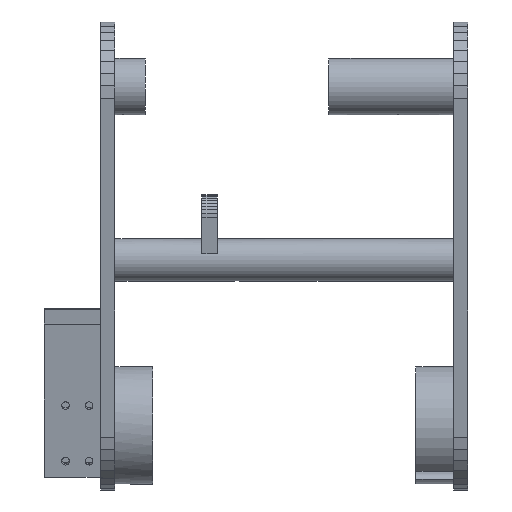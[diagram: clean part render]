
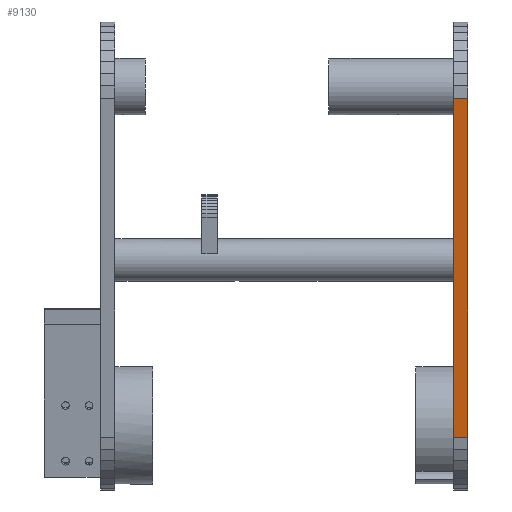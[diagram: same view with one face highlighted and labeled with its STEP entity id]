
A CAD part, left-side view. The second image highlights one B-rep face of the part: STEP entity #9130.
In plain terms, the highlighted planar face has unit normal (-0.983, 0, -0.184).
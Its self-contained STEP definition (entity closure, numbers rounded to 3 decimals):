
#5277 = PLANE('',#5278);
#5278 = AXIS2_PLACEMENT_3D('',#5279,#5280,#5281);
#5279 = CARTESIAN_POINT('',(91.5,-57.8,-284.02));
#5280 = DIRECTION('',(0.,1.,0.));
#5281 = DIRECTION('',(0.,-0.,1.));
#7270 = VERTEX_POINT('',#7271);
#7271 = CARTESIAN_POINT('',(77.971,-57.8,-361.107));
#7285 = PLANE('',#7286);
#7286 = AXIS2_PLACEMENT_3D('',#7287,#7288,#7289);
#7287 = CARTESIAN_POINT('',(79.479,-57.8,-366.282));
#7288 = DIRECTION('',(-0.96,-0.,-0.28));
#7289 = DIRECTION('',(-0.28,0.,0.96));
#7297 = EDGE_CURVE('',#7270,#7298,#7300,.T.);
#7298 = VERTEX_POINT('',#7299);
#7299 = CARTESIAN_POINT('',(50.971,-57.8,-217.067));
#7300 = SURFACE_CURVE('',#7301,(#7305,#7312),.PCURVE_S1.);
#7301 = LINE('',#7302,#7303);
#7302 = CARTESIAN_POINT('',(77.971,-57.8,-361.107));
#7303 = VECTOR('',#7304,1.);
#7304 = DIRECTION('',(-0.184,0.,0.983));
#7305 = PCURVE('',#5277,#7306);
#7306 = DEFINITIONAL_REPRESENTATION('',(#7307),#7311);
#7307 = LINE('',#7308,#7309);
#7308 = CARTESIAN_POINT('',(-77.087,-13.529));
#7309 = VECTOR('',#7310,1.);
#7310 = DIRECTION('',(0.983,-0.184));
#7311 = ( GEOMETRIC_REPRESENTATION_CONTEXT(2) 
PARAMETRIC_REPRESENTATION_CONTEXT() REPRESENTATION_CONTEXT('2D SPACE',''
  ) );
#7312 = PCURVE('',#7313,#7318);
#7313 = PLANE('',#7314);
#7314 = AXIS2_PLACEMENT_3D('',#7315,#7316,#7317);
#7315 = CARTESIAN_POINT('',(77.971,-57.8,-361.107));
#7316 = DIRECTION('',(-0.983,-0.,-0.184));
#7317 = DIRECTION('',(-0.184,0.,0.983));
#7318 = DEFINITIONAL_REPRESENTATION('',(#7319),#7323);
#7319 = LINE('',#7320,#7321);
#7320 = CARTESIAN_POINT('',(0.,0.));
#7321 = VECTOR('',#7322,1.);
#7322 = DIRECTION('',(1.,0.));
#7323 = ( GEOMETRIC_REPRESENTATION_CONTEXT(2) 
PARAMETRIC_REPRESENTATION_CONTEXT() REPRESENTATION_CONTEXT('2D SPACE',''
  ) );
#7341 = PLANE('',#7342);
#7342 = AXIS2_PLACEMENT_3D('',#7343,#7344,#7345);
#7343 = CARTESIAN_POINT('',(50.971,-57.8,-217.067));
#7344 = DIRECTION('',(-0.996,-0.,-0.087));
#7345 = DIRECTION('',(-0.087,0.,0.996));
#8901 = PLANE('',#8902);
#8902 = AXIS2_PLACEMENT_3D('',#8903,#8904,#8905);
#8903 = CARTESIAN_POINT('',(91.5,-63.8,-284.02));
#8904 = DIRECTION('',(0.,1.,0.));
#8905 = DIRECTION('',(0.,-0.,1.));
#9036 = EDGE_CURVE('',#7298,#9037,#9039,.T.);
#9037 = VERTEX_POINT('',#9038);
#9038 = CARTESIAN_POINT('',(50.971,-63.8,-217.067));
#9039 = SURFACE_CURVE('',#9040,(#9044,#9051),.PCURVE_S1.);
#9040 = LINE('',#9041,#9042);
#9041 = CARTESIAN_POINT('',(50.971,-57.8,-217.067));
#9042 = VECTOR('',#9043,1.);
#9043 = DIRECTION('',(0.,-1.,0.));
#9044 = PCURVE('',#7341,#9045);
#9045 = DEFINITIONAL_REPRESENTATION('',(#9046),#9050);
#9046 = LINE('',#9047,#9048);
#9047 = CARTESIAN_POINT('',(0.,0.));
#9048 = VECTOR('',#9049,1.);
#9049 = DIRECTION('',(0.,-1.));
#9050 = ( GEOMETRIC_REPRESENTATION_CONTEXT(2) 
PARAMETRIC_REPRESENTATION_CONTEXT() REPRESENTATION_CONTEXT('2D SPACE',''
  ) );
#9051 = PCURVE('',#7313,#9052);
#9052 = DEFINITIONAL_REPRESENTATION('',(#9053),#9057);
#9053 = LINE('',#9054,#9055);
#9054 = CARTESIAN_POINT('',(146.549,0.));
#9055 = VECTOR('',#9056,1.);
#9056 = DIRECTION('',(0.,-1.));
#9057 = ( GEOMETRIC_REPRESENTATION_CONTEXT(2) 
PARAMETRIC_REPRESENTATION_CONTEXT() REPRESENTATION_CONTEXT('2D SPACE',''
  ) );
#9130 = ADVANCED_FACE('',(#9131),#7313,.T.);
#9131 = FACE_BOUND('',#9132,.T.);
#9132 = EDGE_LOOP('',(#9133,#9156,#9177,#9178));
#9133 = ORIENTED_EDGE('',*,*,#9134,.T.);
#9134 = EDGE_CURVE('',#7270,#9135,#9137,.T.);
#9135 = VERTEX_POINT('',#9136);
#9136 = CARTESIAN_POINT('',(77.971,-63.8,-361.107));
#9137 = SURFACE_CURVE('',#9138,(#9142,#9149),.PCURVE_S1.);
#9138 = LINE('',#9139,#9140);
#9139 = CARTESIAN_POINT('',(77.971,-57.8,-361.107));
#9140 = VECTOR('',#9141,1.);
#9141 = DIRECTION('',(0.,-1.,0.));
#9142 = PCURVE('',#7313,#9143);
#9143 = DEFINITIONAL_REPRESENTATION('',(#9144),#9148);
#9144 = LINE('',#9145,#9146);
#9145 = CARTESIAN_POINT('',(0.,0.));
#9146 = VECTOR('',#9147,1.);
#9147 = DIRECTION('',(0.,-1.));
#9148 = ( GEOMETRIC_REPRESENTATION_CONTEXT(2) 
PARAMETRIC_REPRESENTATION_CONTEXT() REPRESENTATION_CONTEXT('2D SPACE',''
  ) );
#9149 = PCURVE('',#7285,#9150);
#9150 = DEFINITIONAL_REPRESENTATION('',(#9151),#9155);
#9151 = LINE('',#9152,#9153);
#9152 = CARTESIAN_POINT('',(5.391,0.));
#9153 = VECTOR('',#9154,1.);
#9154 = DIRECTION('',(0.,-1.));
#9155 = ( GEOMETRIC_REPRESENTATION_CONTEXT(2) 
PARAMETRIC_REPRESENTATION_CONTEXT() REPRESENTATION_CONTEXT('2D SPACE',''
  ) );
#9156 = ORIENTED_EDGE('',*,*,#9157,.T.);
#9157 = EDGE_CURVE('',#9135,#9037,#9158,.T.);
#9158 = SURFACE_CURVE('',#9159,(#9163,#9170),.PCURVE_S1.);
#9159 = LINE('',#9160,#9161);
#9160 = CARTESIAN_POINT('',(77.971,-63.8,-361.107));
#9161 = VECTOR('',#9162,1.);
#9162 = DIRECTION('',(-0.184,0.,0.983));
#9163 = PCURVE('',#7313,#9164);
#9164 = DEFINITIONAL_REPRESENTATION('',(#9165),#9169);
#9165 = LINE('',#9166,#9167);
#9166 = CARTESIAN_POINT('',(0.,-6.));
#9167 = VECTOR('',#9168,1.);
#9168 = DIRECTION('',(1.,0.));
#9169 = ( GEOMETRIC_REPRESENTATION_CONTEXT(2) 
PARAMETRIC_REPRESENTATION_CONTEXT() REPRESENTATION_CONTEXT('2D SPACE',''
  ) );
#9170 = PCURVE('',#8901,#9171);
#9171 = DEFINITIONAL_REPRESENTATION('',(#9172),#9176);
#9172 = LINE('',#9173,#9174);
#9173 = CARTESIAN_POINT('',(-77.087,-13.529));
#9174 = VECTOR('',#9175,1.);
#9175 = DIRECTION('',(0.983,-0.184));
#9176 = ( GEOMETRIC_REPRESENTATION_CONTEXT(2) 
PARAMETRIC_REPRESENTATION_CONTEXT() REPRESENTATION_CONTEXT('2D SPACE',''
  ) );
#9177 = ORIENTED_EDGE('',*,*,#9036,.F.);
#9178 = ORIENTED_EDGE('',*,*,#7297,.F.);
